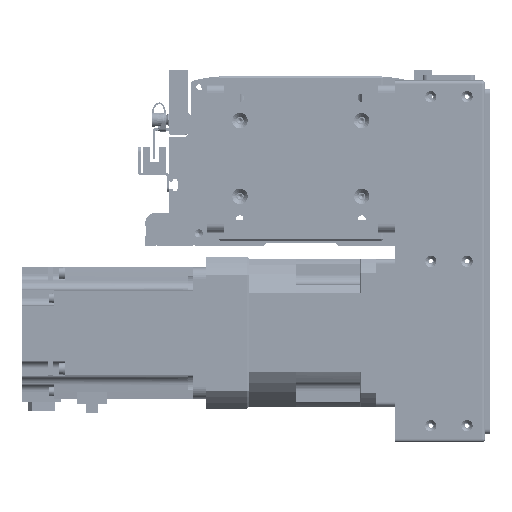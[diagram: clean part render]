
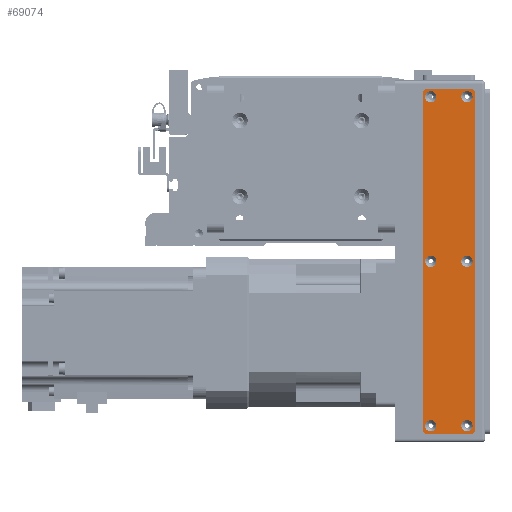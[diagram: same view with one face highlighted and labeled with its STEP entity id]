
A CAD part, front view. The second image highlights one B-rep face of the part: STEP entity #69074.
In plain terms, the highlighted planar face has unit normal (0, -1, 0).
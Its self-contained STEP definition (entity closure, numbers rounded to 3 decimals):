
#1868=FACE_BOUND('',#14381,.T.);
#1869=FACE_BOUND('',#14382,.T.);
#1870=FACE_BOUND('',#14383,.T.);
#1871=FACE_BOUND('',#14384,.T.);
#1872=FACE_BOUND('',#14385,.T.);
#1873=FACE_BOUND('',#14386,.T.);
#5288=PLANE('',#76400);
#10023=FACE_OUTER_BOUND('',#14380,.T.);
#14380=EDGE_LOOP('',(#64959,#64960,#64961,#64962,#64963,#64964,#64965,#64966));
#14381=EDGE_LOOP('',(#64967));
#14382=EDGE_LOOP('',(#64968));
#14383=EDGE_LOOP('',(#64969));
#14384=EDGE_LOOP('',(#64970));
#14385=EDGE_LOOP('',(#64971));
#14386=EDGE_LOOP('',(#64972));
#20781=LINE('',#118796,#27137);
#20782=LINE('',#118800,#27138);
#20783=LINE('',#118804,#27139);
#20784=LINE('',#118807,#27140);
#27137=VECTOR('',#96077,10.);
#27138=VECTOR('',#96080,10.);
#27139=VECTOR('',#96083,10.);
#27140=VECTOR('',#96086,10.);
#29799=CIRCLE('',#76368,3.45);
#29802=CIRCLE('',#76373,3.45);
#29805=CIRCLE('',#76378,3.45);
#29808=CIRCLE('',#76383,3.45);
#29811=CIRCLE('',#76388,3.45);
#29814=CIRCLE('',#76393,3.45);
#29817=CIRCLE('',#76398,3.);
#29819=CIRCLE('',#76401,3.);
#29820=CIRCLE('',#76402,3.);
#29821=CIRCLE('',#76403,3.);
#36160=VERTEX_POINT('',#118726);
#36163=VERTEX_POINT('',#118736);
#36166=VERTEX_POINT('',#118746);
#36169=VERTEX_POINT('',#118756);
#36172=VERTEX_POINT('',#118766);
#36175=VERTEX_POINT('',#118776);
#36178=VERTEX_POINT('',#118786);
#36179=VERTEX_POINT('',#118787);
#36182=VERTEX_POINT('',#118795);
#36183=VERTEX_POINT('',#118797);
#36184=VERTEX_POINT('',#118799);
#36185=VERTEX_POINT('',#118801);
#36186=VERTEX_POINT('',#118803);
#36187=VERTEX_POINT('',#118805);
#45757=EDGE_CURVE('',#36160,#36160,#29799,.T.);
#45762=EDGE_CURVE('',#36163,#36163,#29802,.T.);
#45767=EDGE_CURVE('',#36166,#36166,#29805,.T.);
#45772=EDGE_CURVE('',#36169,#36169,#29808,.T.);
#45777=EDGE_CURVE('',#36172,#36172,#29811,.T.);
#45782=EDGE_CURVE('',#36175,#36175,#29814,.T.);
#45787=EDGE_CURVE('',#36178,#36179,#29817,.T.);
#45791=EDGE_CURVE('',#36178,#36182,#20781,.T.);
#45792=EDGE_CURVE('',#36183,#36182,#29819,.T.);
#45793=EDGE_CURVE('',#36183,#36184,#20782,.T.);
#45794=EDGE_CURVE('',#36185,#36184,#29820,.T.);
#45795=EDGE_CURVE('',#36185,#36186,#20783,.T.);
#45796=EDGE_CURVE('',#36187,#36186,#29821,.T.);
#45797=EDGE_CURVE('',#36187,#36179,#20784,.T.);
#64959=ORIENTED_EDGE('',*,*,#45787,.F.);
#64960=ORIENTED_EDGE('',*,*,#45791,.T.);
#64961=ORIENTED_EDGE('',*,*,#45792,.F.);
#64962=ORIENTED_EDGE('',*,*,#45793,.T.);
#64963=ORIENTED_EDGE('',*,*,#45794,.F.);
#64964=ORIENTED_EDGE('',*,*,#45795,.T.);
#64965=ORIENTED_EDGE('',*,*,#45796,.F.);
#64966=ORIENTED_EDGE('',*,*,#45797,.T.);
#64967=ORIENTED_EDGE('',*,*,#45757,.T.);
#64968=ORIENTED_EDGE('',*,*,#45762,.T.);
#64969=ORIENTED_EDGE('',*,*,#45767,.T.);
#64970=ORIENTED_EDGE('',*,*,#45772,.T.);
#64971=ORIENTED_EDGE('',*,*,#45777,.T.);
#64972=ORIENTED_EDGE('',*,*,#45782,.T.);
#69074=ADVANCED_FACE('',(#10023,#1868,#1869,#1870,#1871,#1872,#1873),#5288,
 .T.);
#76368=AXIS2_PLACEMENT_3D('',#118727,#95997,#95998);
#76373=AXIS2_PLACEMENT_3D('',#118737,#96009,#96010);
#76378=AXIS2_PLACEMENT_3D('',#118747,#96021,#96022);
#76383=AXIS2_PLACEMENT_3D('',#118757,#96033,#96034);
#76388=AXIS2_PLACEMENT_3D('',#118767,#96045,#96046);
#76393=AXIS2_PLACEMENT_3D('',#118777,#96057,#96058);
#76398=AXIS2_PLACEMENT_3D('',#118788,#96069,#96070);
#76400=AXIS2_PLACEMENT_3D('',#118794,#96075,#96076);
#76401=AXIS2_PLACEMENT_3D('',#118798,#96078,#96079);
#76402=AXIS2_PLACEMENT_3D('',#118802,#96081,#96082);
#76403=AXIS2_PLACEMENT_3D('',#118806,#96084,#96085);
#95997=DIRECTION('center_axis',(0.,1.,0.));
#95998=DIRECTION('ref_axis',(1.,0.,0.));
#96009=DIRECTION('center_axis',(0.,1.,0.));
#96010=DIRECTION('ref_axis',(1.,0.,0.));
#96021=DIRECTION('center_axis',(0.,1.,0.));
#96022=DIRECTION('ref_axis',(1.,0.,0.));
#96033=DIRECTION('center_axis',(0.,1.,0.));
#96034=DIRECTION('ref_axis',(1.,0.,0.));
#96045=DIRECTION('center_axis',(0.,1.,0.));
#96046=DIRECTION('ref_axis',(1.,0.,0.));
#96057=DIRECTION('center_axis',(0.,1.,0.));
#96058=DIRECTION('ref_axis',(1.,0.,0.));
#96069=DIRECTION('center_axis',(0.,1.,0.));
#96070=DIRECTION('ref_axis',(-0.707,0.,0.707));
#96075=DIRECTION('center_axis',(0.,-1.,0.));
#96076=DIRECTION('ref_axis',(0.,0.,-1.));
#96077=DIRECTION('',(0.,0.,-1.));
#96078=DIRECTION('center_axis',(0.,1.,0.));
#96079=DIRECTION('ref_axis',(-0.707,0.,-0.707));
#96080=DIRECTION('',(1.,0.,0.));
#96081=DIRECTION('center_axis',(0.,1.,0.));
#96082=DIRECTION('ref_axis',(0.707,0.,-0.707));
#96083=DIRECTION('',(0.,0.,1.));
#96084=DIRECTION('center_axis',(0.,1.,0.));
#96085=DIRECTION('ref_axis',(0.707,0.,0.707));
#96086=DIRECTION('',(-1.,0.,0.));
#118726=CARTESIAN_POINT('',(96.55,-1.5,11.));
#118727=CARTESIAN_POINT('Origin',(100.,-1.5,11.));
#118736=CARTESIAN_POINT('',(-103.45,-1.5,-11.));
#118737=CARTESIAN_POINT('Origin',(-100.,-1.5,-11.));
#118746=CARTESIAN_POINT('',(-3.45,-1.5,11.));
#118747=CARTESIAN_POINT('Origin',(0.,-1.5,11.));
#118756=CARTESIAN_POINT('',(-3.45,-1.5,-11.));
#118757=CARTESIAN_POINT('Origin',(0.,-1.5,-11.));
#118766=CARTESIAN_POINT('',(-103.45,-1.5,11.));
#118767=CARTESIAN_POINT('Origin',(-100.,-1.5,11.));
#118776=CARTESIAN_POINT('',(96.55,-1.5,-11.));
#118777=CARTESIAN_POINT('Origin',(100.,-1.5,-11.));
#118786=CARTESIAN_POINT('',(-105.,-1.5,13.));
#118787=CARTESIAN_POINT('',(-102.,-1.5,16.));
#118788=CARTESIAN_POINT('Origin',(-102.,-1.5,13.));
#118794=CARTESIAN_POINT('Origin',(0.,-1.5,0.));
#118795=CARTESIAN_POINT('',(-105.,-1.5,-13.));
#118796=CARTESIAN_POINT('',(-105.,-1.5,16.));
#118797=CARTESIAN_POINT('',(-102.,-1.5,-16.));
#118798=CARTESIAN_POINT('Origin',(-102.,-1.5,-13.));
#118799=CARTESIAN_POINT('',(102.,-1.5,-16.));
#118800=CARTESIAN_POINT('',(-105.,-1.5,-16.));
#118801=CARTESIAN_POINT('',(105.,-1.5,-13.));
#118802=CARTESIAN_POINT('Origin',(102.,-1.5,-13.));
#118803=CARTESIAN_POINT('',(105.,-1.5,13.));
#118804=CARTESIAN_POINT('',(105.,-1.5,-16.));
#118805=CARTESIAN_POINT('',(102.,-1.5,16.));
#118806=CARTESIAN_POINT('Origin',(102.,-1.5,13.));
#118807=CARTESIAN_POINT('',(105.,-1.5,16.));
